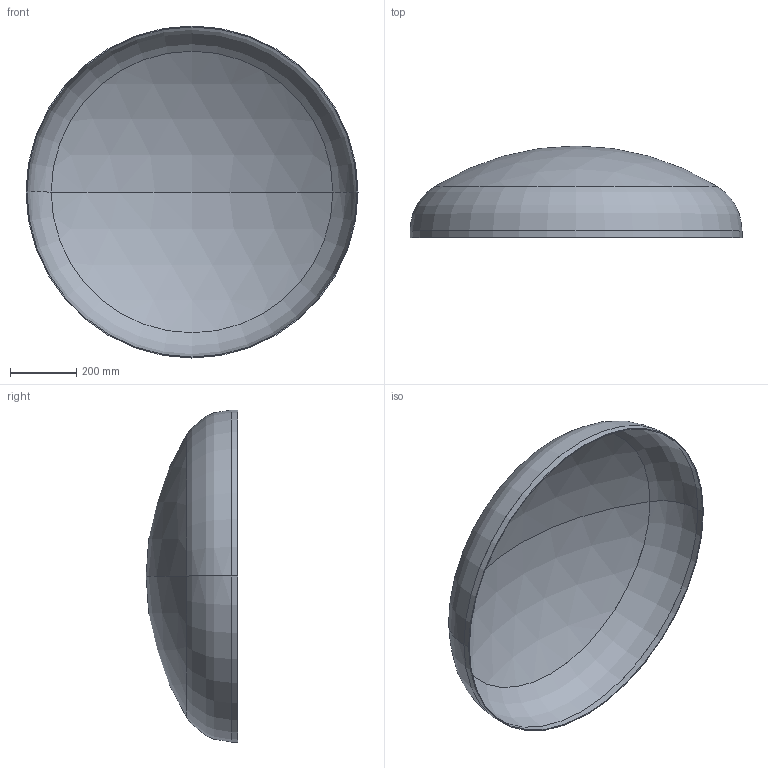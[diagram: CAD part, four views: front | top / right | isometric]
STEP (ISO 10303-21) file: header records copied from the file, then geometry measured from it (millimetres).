
FILE_DESCRIPTION (( 'STEP AP203' ), '1' );
FILE_NAME ('DIN 28013 Korbbogenform_-_Boden DIN 28013 - 1000 x 20 - I - s=3.step', '2016-07-01T08:40:07', ( '' ), ( '' ), 'SwSTEP 2.0', 'SolidWorks 2013', '' );
FILE_SCHEMA (( 'CONFIG_CONTROL_DESIGN' ));
Length unit declared in the file: millimetre
Products named in the file (1): DIN 28013 Korbbogenform_-_Boden DIN 28013 - 1000 x 20 - I - s=3
Bounding box: 1000 x 276.14 x 1000 mm (x, y, z)
Volume: 3442637.6 mm3; surface area: 2304506.2 mm2
Topology: 1 solids, 1 shells, 13 faces, 24 edges, 14 vertices
Faces by surface type: torus 4, cylinder 4, sphere 4, plane 1
Entity records: 407 total; most frequent: DIRECTION 72, CARTESIAN_POINT 52, ORIENTED_EDGE 48, AXIS2_PLACEMENT_3D 34, EDGE_CURVE 24, CIRCLE 20, EDGE_LOOP 14, VERTEX_POINT 14
